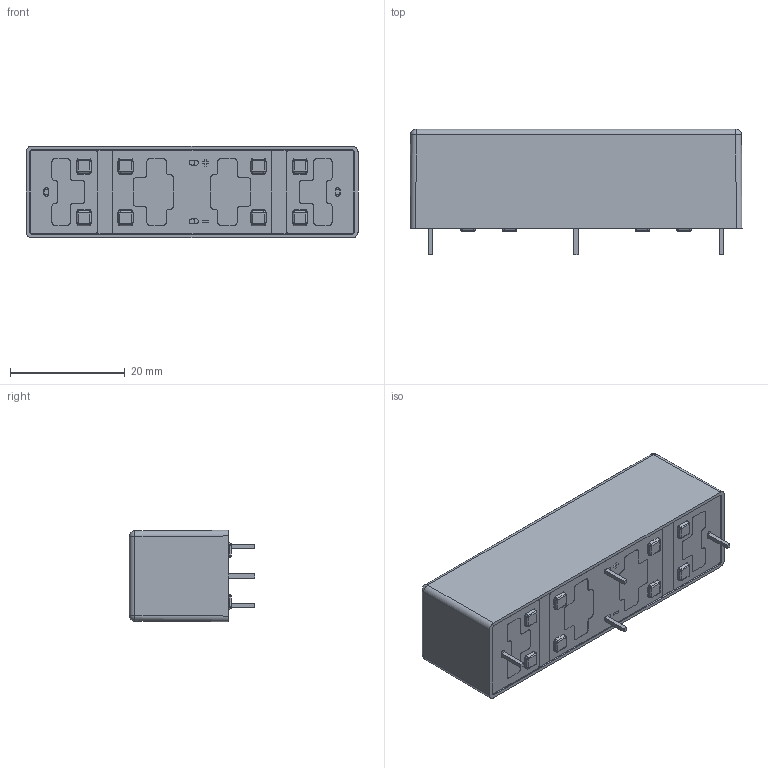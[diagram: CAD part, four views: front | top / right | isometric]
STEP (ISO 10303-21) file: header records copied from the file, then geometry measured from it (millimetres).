
FILE_DESCRIPTION (( 'STEP AP203' ), '1' );
FILE_NAME ('600 SERIES - 600 1A or B PCB-1.STEP', '2025-06-30T14:50:53', ( '' ), ( '' ), 'SwSTEP 2.0', 'SolidWorks 2023', '' );
FILE_SCHEMA (( 'CONFIG_CONTROL_DESIGN' ));
Length unit declared in the file: millimetre
Products named in the file (1): 600 SERIES - 600 1A or B PCB-1
Bounding box: 57.85 x 21.87 x 15.95 mm (x, y, z)
Volume: 2203.5 mm3; surface area: 8387.9 mm2
Topology: 38 solids, 38 shells, 889 faces, 2258 edges, 1448 vertices
Faces by surface type: plane 413, cylinder 344, bspline 96, sphere 36
Entity records: 27431 total; most frequent: CARTESIAN_POINT 6880, ORIENTED_EDGE 4516, DIRECTION 4046, EDGE_CURVE 2258, VERTEX_POINT 1448, AXIS2_PLACEMENT_3D 1382, VECTOR 1282, LINE 1282
